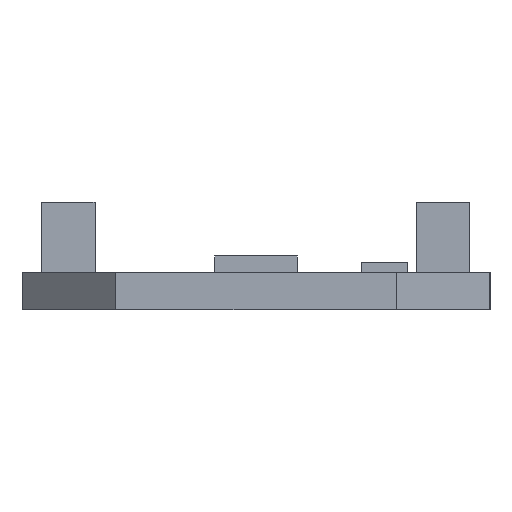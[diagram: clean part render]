
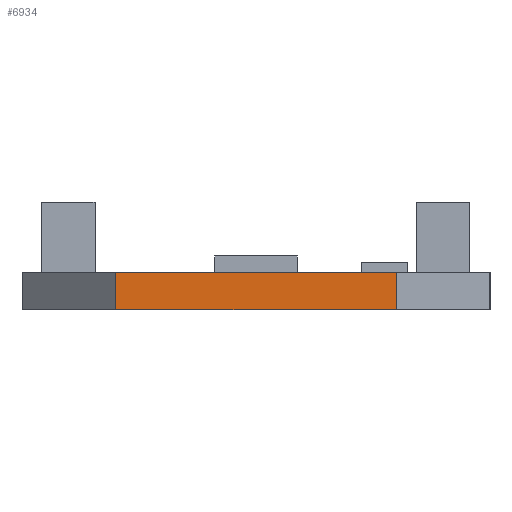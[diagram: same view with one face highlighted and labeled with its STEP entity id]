
A CAD part, left-side view. The second image highlights one B-rep face of the part: STEP entity #6934.
In plain terms, the highlighted planar face has unit normal (-1, 0, 0).
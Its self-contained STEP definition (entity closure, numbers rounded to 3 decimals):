
#195 = VECTOR ( 'NONE', #24157, 1000. ) ;
#465 = DIRECTION ( 'NONE',  ( 0., 0., 1. ) ) ;
#492 = CARTESIAN_POINT ( 'NONE',  ( -0.007, 16., 0. ) ) ;
#1493 = CARTESIAN_POINT ( 'NONE',  ( -0.005, 3.995, 0. ) ) ;
#1641 = EDGE_CURVE ( 'NONE', #23490, #23843, #20522, .T. ) ;
#1984 = LINE ( 'NONE', #10903, #3759 ) ;
#1985 = DIRECTION ( 'NONE',  ( 1., 0., 0. ) ) ;
#3759 = VECTOR ( 'NONE', #26619, 1000. ) ;
#4425 = EDGE_LOOP ( 'NONE', ( #6384, #27271, #5394, #23871 ) ) ;
#5360 = EDGE_CURVE ( 'NONE', #20185, #6304, #26498, .T. ) ;
#5394 = ORIENTED_EDGE ( 'NONE', *, *, #14475, .F. ) ;
#6242 = CARTESIAN_POINT ( 'NONE',  ( -0.007, 16., -1.6 ) ) ;
#6304 = VERTEX_POINT ( 'NONE', #7066 ) ;
#6384 = ORIENTED_EDGE ( 'NONE', *, *, #12377, .T. ) ;
#6934 = ADVANCED_FACE ( 'NONE', ( #17081 ), #26469, .F. ) ;
#7066 = CARTESIAN_POINT ( 'NONE',  ( -0.007, 16., 0. ) ) ;
#10903 = CARTESIAN_POINT ( 'NONE',  ( -0.007, 16., -1.6 ) ) ;
#12377 = EDGE_CURVE ( 'NONE', #20185, #23490, #1984, .T. ) ;
#14475 = EDGE_CURVE ( 'NONE', #6304, #23843, #16452, .T. ) ;
#14796 = AXIS2_PLACEMENT_3D ( 'NONE', #6242, #1985, #28384 ) ;
#16452 = LINE ( 'NONE', #492, #21509 ) ;
#17081 = FACE_OUTER_BOUND ( 'NONE', #4425, .T. ) ;
#19880 = CARTESIAN_POINT ( 'NONE',  ( -0.007, 16., -1.6 ) ) ;
#20185 = VERTEX_POINT ( 'NONE', #28758 ) ;
#20228 = CARTESIAN_POINT ( 'NONE',  ( -0.005, 3.995, -1.6 ) ) ;
#20401 = DIRECTION ( 'NONE',  ( 0., -1., 0. ) ) ;
#20522 = LINE ( 'NONE', #20228, #24614 ) ;
#21509 = VECTOR ( 'NONE', #20401, 1000. ) ;
#23490 = VERTEX_POINT ( 'NONE', #28350 ) ;
#23843 = VERTEX_POINT ( 'NONE', #1493 ) ;
#23871 = ORIENTED_EDGE ( 'NONE', *, *, #5360, .F. ) ;
#24157 = DIRECTION ( 'NONE',  ( 0., 0., 1. ) ) ;
#24614 = VECTOR ( 'NONE', #465, 1000. ) ;
#26469 = PLANE ( 'NONE',  #14796 ) ;
#26498 = LINE ( 'NONE', #19880, #195 ) ;
#26619 = DIRECTION ( 'NONE',  ( 0., -1., 0. ) ) ;
#27271 = ORIENTED_EDGE ( 'NONE', *, *, #1641, .T. ) ;
#28350 = CARTESIAN_POINT ( 'NONE',  ( -0.005, 3.995, -1.6 ) ) ;
#28384 = DIRECTION ( 'NONE',  ( 0., 0., -1. ) ) ;
#28758 = CARTESIAN_POINT ( 'NONE',  ( -0.007, 16., -1.6 ) ) ;
